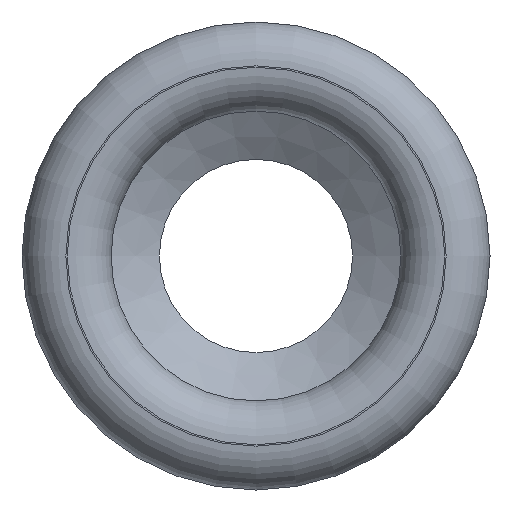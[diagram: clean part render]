
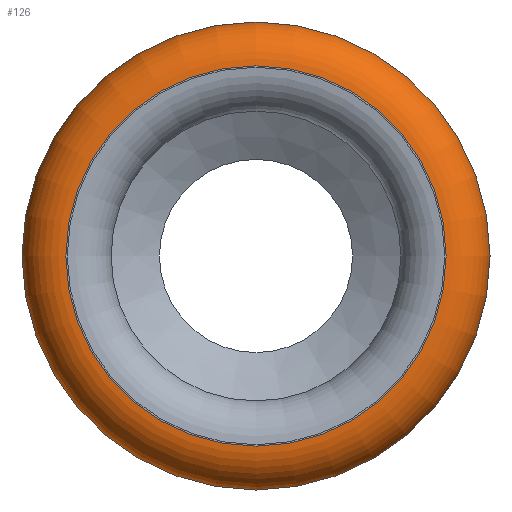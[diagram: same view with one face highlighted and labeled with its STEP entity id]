
A CAD part, left-side view. The second image highlights one B-rep face of the part: STEP entity #126.
In plain terms, the highlighted toroidal (fillet/blend) face has major radius 0.65 mm and minor radius 0.15 mm.
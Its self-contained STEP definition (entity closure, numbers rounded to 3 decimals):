
#25=FACE_BOUND($,#51,.T.);
#38=FACE_OUTER_BOUND($,#50,.T.);
#50=EDGE_LOOP($,(#105));
#51=EDGE_LOOP($,(#106));
#68=CIRCLE($,#141,0.65);
#70=CIRCLE($,#145,0.8);
#79=VERTEX_POINT($,#212);
#81=VERTEX_POINT($,#218);
#90=EDGE_CURVE($,#79,#79,#68,.T.);
#92=EDGE_CURVE($,#81,#81,#70,.T.);
#105=ORIENTED_EDGE($,*,*,#90,.T.);
#106=ORIENTED_EDGE($,*,*,#92,.T.);
#122=TOROIDAL_SURFACE($,#144,0.65,0.15);
#126=ADVANCED_FACE($,(#38,#25),#122,.T.);
#141=AXIS2_PLACEMENT_3D($,#213,#169,#170);
#144=AXIS2_PLACEMENT_3D($,#217,#175,#176);
#145=AXIS2_PLACEMENT_3D($,#219,#177,#178);
#169=DIRECTION('center_axis',(1.,0.,0.));
#170=DIRECTION('ref_axis',(0.,-1.,0.));
#175=DIRECTION('center_axis',(1.,0.,0.));
#176=DIRECTION('ref_axis',(0.,0.,-1.));
#177=DIRECTION('center_axis',(-1.,0.,0.));
#178=DIRECTION('ref_axis',(0.,-1.,0.));
#212=CARTESIAN_POINT('',(0.,0.65,0.));
#213=CARTESIAN_POINT('Origin',(0.,0.,
0.));
#217=CARTESIAN_POINT('Origin',(0.15,0.,0.));
#218=CARTESIAN_POINT('',(0.15,0.8,0.));
#219=CARTESIAN_POINT('Origin',(0.15,0.,0.));
